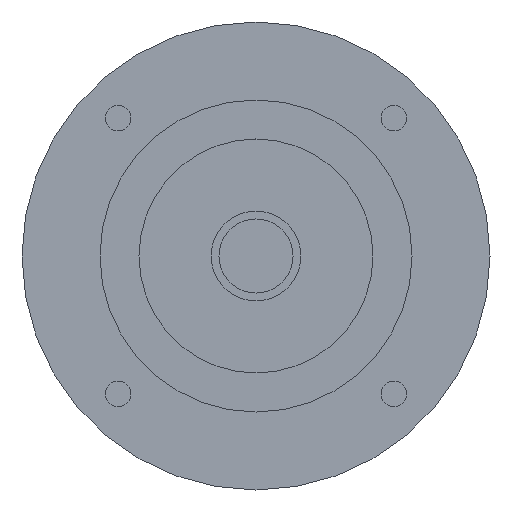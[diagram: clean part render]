
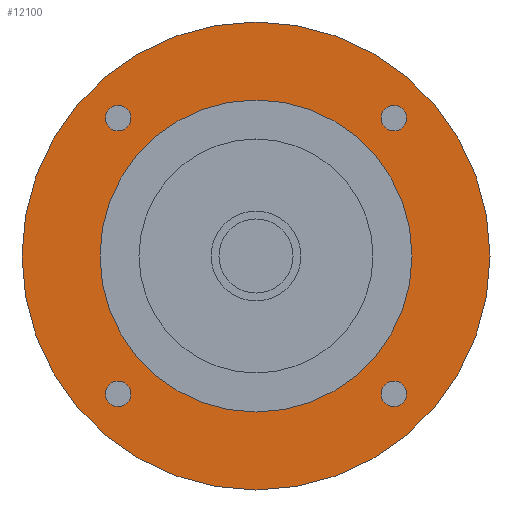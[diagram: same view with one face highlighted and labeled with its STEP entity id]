
A CAD part, left-side view. The second image highlights one B-rep face of the part: STEP entity #12100.
In plain terms, the highlighted planar face has unit normal (-1, 0, 0) as drawn and (0, 0, -1) by its records, which use the part's own axes.
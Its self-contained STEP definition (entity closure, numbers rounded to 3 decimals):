
#8610=CARTESIAN_POINT('',(60.,0.,-47.401));
#8620=VERTEX_POINT('',#8610);
#8650=CARTESIAN_POINT('',(0.,0.,
-47.401));
#8660=DIRECTION('',(0.,0.,-1.));
#8670=DIRECTION('',(0.,-1.,0.));
#8680=AXIS2_PLACEMENT_3D('',#8650,#8660,#8670);
#8690=CIRCLE('',#8680,60.);
#8700=CARTESIAN_POINT('',(0.,-60.,-47.401));
#8710=VERTEX_POINT('',#8700);
#8720=EDGE_CURVE('',#8620,#8710,#8690,.T.);
#8740=CARTESIAN_POINT('',(-60.,0.,-47.401));
#8750=VERTEX_POINT('',#8740);
#8760=EDGE_CURVE('',#8710,#8750,#8690,.T.);
#11070=CARTESIAN_POINT('',(32.105,-35.355,-47.401));
#11080=VERTEX_POINT('',#11070);
#11110=CARTESIAN_POINT('',(35.355,-35.355,-47.401));
#11120=DIRECTION('',(0.,0.,-1.));
#11130=DIRECTION('',(1.,0.,0.));
#11140=AXIS2_PLACEMENT_3D('',#11110,#11120,#11130);
#11150=CIRCLE('',#11140,3.25);
#11160=CARTESIAN_POINT('',(38.605,-35.355,-47.401));
#11170=VERTEX_POINT('',#11160);
#11180=EDGE_CURVE('',#11170,#11080,#11150,.T.);
#11300=CARTESIAN_POINT('',(0.,0.,
-47.401));
#11310=DIRECTION('',(0.,0.,-1.));
#11320=DIRECTION('',(1.,0.,0.));
#11330=AXIS2_PLACEMENT_3D('',#11300,#11310,#11320);
#11340=PLANE('',#11330);
#11350=CARTESIAN_POINT('',(35.355,35.355,-47.401));
#11360=DIRECTION('',(0.,0.,-1.));
#11370=DIRECTION('',(0.,1.,0.));
#11380=AXIS2_PLACEMENT_3D('',#11350,#11360,#11370);
#11390=CIRCLE('',#11380,3.25);
#11400=CARTESIAN_POINT('',(35.355,38.605,-47.401));
#11410=VERTEX_POINT('',#11400);
#11420=CARTESIAN_POINT('',(35.355,32.105,-47.401));
#11430=VERTEX_POINT('',#11420);
#11440=EDGE_CURVE('',#11410,#11430,#11390,.T.);
#11450=ORIENTED_EDGE('',*,*,#11440,.F.);
#11460=EDGE_CURVE('',#11430,#11410,#11390,.T.);
#11470=ORIENTED_EDGE('',*,*,#11460,.F.);
#11480=EDGE_LOOP('',(#11470,#11450));
#11490=FACE_BOUND('',#11480,.T.);
#11500=CARTESIAN_POINT('',(-35.355,35.355,-47.401));
#11510=DIRECTION('',(0.,0.,-1.));
#11520=DIRECTION('',(-1.,0.,0.));
#11530=AXIS2_PLACEMENT_3D('',#11500,#11510,#11520);
#11540=CIRCLE('',#11530,3.25);
#11550=CARTESIAN_POINT('',(-38.605,35.355,-47.401));
#11560=VERTEX_POINT('',#11550);
#11570=CARTESIAN_POINT('',(-32.105,35.355,-47.401));
#11580=VERTEX_POINT('',#11570);
#11590=EDGE_CURVE('',#11560,#11580,#11540,.T.);
#11600=ORIENTED_EDGE('',*,*,#11590,.F.);
#11610=EDGE_CURVE('',#11580,#11560,#11540,.T.);
#11620=ORIENTED_EDGE('',*,*,#11610,.F.);
#11630=EDGE_LOOP('',(#11620,#11600));
#11640=FACE_BOUND('',#11630,.T.);
#11650=CARTESIAN_POINT('',(-35.355,-35.355,-47.401))
;
#11660=DIRECTION('',(0.,0.,-1.));
#11670=DIRECTION('',(0.,-1.,0.));
#11680=AXIS2_PLACEMENT_3D('',#11650,#11660,#11670);
#11690=CIRCLE('',#11680,3.25);
#11700=CARTESIAN_POINT('',(-35.355,-38.605,-47.401))
;
#11710=VERTEX_POINT('',#11700);
#11720=CARTESIAN_POINT('',(-35.355,-32.105,-47.401))
;
#11730=VERTEX_POINT('',#11720);
#11740=EDGE_CURVE('',#11710,#11730,#11690,.T.);
#11750=ORIENTED_EDGE('',*,*,#11740,.F.);
#11760=EDGE_CURVE('',#11730,#11710,#11690,.T.);
#11770=ORIENTED_EDGE('',*,*,#11760,.F.);
#11780=EDGE_LOOP('',(#11770,#11750));
#11790=FACE_BOUND('',#11780,.T.);
#11800=CARTESIAN_POINT('',(0.,0.,
-47.401));
#11810=DIRECTION('',(0.,0.,1.));
#11820=DIRECTION('',(0.,1.,0.));
#11830=AXIS2_PLACEMENT_3D('',#11800,#11810,#11820);
#11840=CIRCLE('',#11830,40.);
#11850=CARTESIAN_POINT('',(-40.,0.,-47.401));
#11860=VERTEX_POINT('',#11850);
#11870=CARTESIAN_POINT('',(40.,0.,-47.401));
#11880=VERTEX_POINT('',#11870);
#11890=EDGE_CURVE('',#11860,#11880,#11840,.T.);
#11900=ORIENTED_EDGE('',*,*,#11890,.T.);
#11910=CARTESIAN_POINT('',(0.,40.,-47.401));
#11920=VERTEX_POINT('',#11910);
#11930=EDGE_CURVE('',#11920,#11860,#11840,.T.);
#11940=ORIENTED_EDGE('',*,*,#11930,.T.);
#11950=EDGE_CURVE('',#11880,#11920,#11840,.T.);
#11960=ORIENTED_EDGE('',*,*,#11950,.T.);
#11970=EDGE_LOOP('',(#11960,#11940,#11900));
#11980=FACE_BOUND('',#11970,.T.);
#11990=ORIENTED_EDGE('',*,*,#11180,.F.);
#12000=EDGE_CURVE('',#11080,#11170,#11150,.T.);
#12010=ORIENTED_EDGE('',*,*,#12000,.F.);
#12020=EDGE_LOOP('',(#12010,#11990));
#12030=FACE_BOUND('',#12020,.T.);
#12040=EDGE_CURVE('',#8750,#8620,#8690,.T.);
#12050=ORIENTED_EDGE('',*,*,#12040,.T.);
#12060=ORIENTED_EDGE('',*,*,#8760,.T.);
#12070=ORIENTED_EDGE('',*,*,#8720,.T.);
#12080=EDGE_LOOP('',(#12070,#12060,#12050));
#12090=FACE_OUTER_BOUND('',#12080,.T.);
#12100=ADVANCED_FACE('',(#11490,#11640,#11790,#11980,#12030,#12090),
#11340,.T.);
